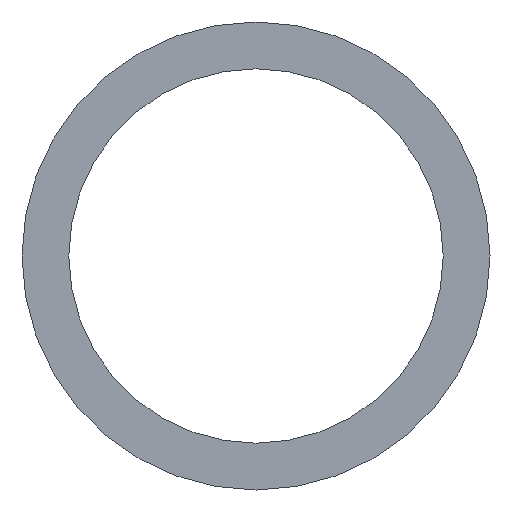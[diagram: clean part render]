
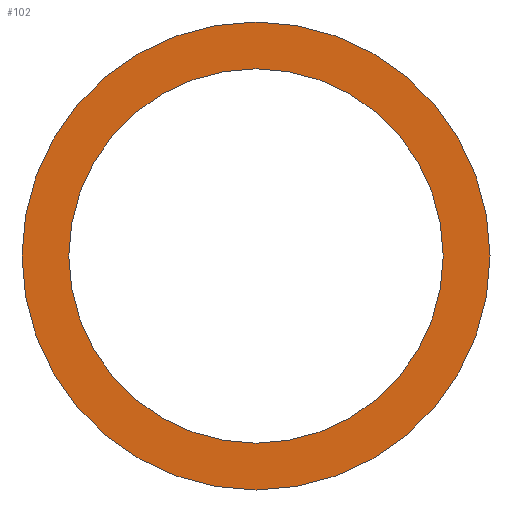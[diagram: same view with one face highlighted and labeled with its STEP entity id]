
A CAD part, front view. The second image highlights one B-rep face of the part: STEP entity #102.
In plain terms, the highlighted planar face has unit normal (0, -1, 0).
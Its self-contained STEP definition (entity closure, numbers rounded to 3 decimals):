
#1 = EDGE_LOOP ( 'NONE', ( #163, #138 ) ) ;
#2 = VERTEX_POINT ( 'NONE', #133 ) ;
#16 = ORIENTED_EDGE ( 'NONE', *, *, #173, .F. ) ;
#17 = CIRCLE ( 'NONE', #235, 4. ) ;
#21 = CARTESIAN_POINT ( 'NONE',  ( 0., -110., 0. ) ) ;
#23 = FACE_OUTER_BOUND ( 'NONE', #220, .T. ) ;
#35 = EDGE_CURVE ( 'NONE', #109, #71, #17, .T. ) ;
#42 = DIRECTION ( 'NONE',  ( 0., 1., 0. ) ) ;
#45 = DIRECTION ( 'NONE',  ( 0., 1., 0. ) ) ;
#50 = CARTESIAN_POINT ( 'NONE',  ( 0., -110., 0. ) ) ;
#66 = CIRCLE ( 'NONE', #108, 4. ) ;
#68 = PLANE ( 'NONE',  #200 ) ;
#71 = VERTEX_POINT ( 'NONE', #189 ) ;
#88 = DIRECTION ( 'NONE',  ( 0., 0., 1. ) ) ;
#93 = CIRCLE ( 'NONE', #157, 5. ) ;
#95 = EDGE_CURVE ( 'NONE', #141, #2, #247, .T. ) ;
#97 = AXIS2_PLACEMENT_3D ( 'NONE', #50, #128, #204 ) ;
#99 = CARTESIAN_POINT ( 'NONE',  ( 0., -110., -5. ) ) ;
#102 = ADVANCED_FACE ( 'NONE', ( #23, #241 ), #68, .F. ) ;
#106 = CARTESIAN_POINT ( 'NONE',  ( 0., -110., 0. ) ) ;
#108 = AXIS2_PLACEMENT_3D ( 'NONE', #161, #42, #118 ) ;
#109 = VERTEX_POINT ( 'NONE', #202 ) ;
#118 = DIRECTION ( 'NONE',  ( 0., 0., 1. ) ) ;
#128 = DIRECTION ( 'NONE',  ( 0., 1., 0. ) ) ;
#130 = CARTESIAN_POINT ( 'NONE',  ( 0., -110., 0. ) ) ;
#133 = CARTESIAN_POINT ( 'NONE',  ( 0., -110., 5. ) ) ;
#138 = ORIENTED_EDGE ( 'NONE', *, *, #195, .T. ) ;
#141 = VERTEX_POINT ( 'NONE', #99 ) ;
#142 = DIRECTION ( 'NONE',  ( 0., 0., 1. ) ) ;
#149 = ORIENTED_EDGE ( 'NONE', *, *, #95, .F. ) ;
#157 = AXIS2_PLACEMENT_3D ( 'NONE', #130, #167, #206 ) ;
#161 = CARTESIAN_POINT ( 'NONE',  ( 0., -110., 0. ) ) ;
#163 = ORIENTED_EDGE ( 'NONE', *, *, #35, .T. ) ;
#167 = DIRECTION ( 'NONE',  ( 0., 1., 0. ) ) ;
#173 = EDGE_CURVE ( 'NONE', #2, #141, #93, .T. ) ;
#189 = CARTESIAN_POINT ( 'NONE',  ( 0., -110., 4. ) ) ;
#195 = EDGE_CURVE ( 'NONE', #71, #109, #66, .T. ) ;
#200 = AXIS2_PLACEMENT_3D ( 'NONE', #21, #45, #142 ) ;
#202 = CARTESIAN_POINT ( 'NONE',  ( 0., -110., -4. ) ) ;
#204 = DIRECTION ( 'NONE',  ( 0., 0., 1. ) ) ;
#206 = DIRECTION ( 'NONE',  ( 0., 0., 1. ) ) ;
#207 = DIRECTION ( 'NONE',  ( 0., 1., 0. ) ) ;
#220 = EDGE_LOOP ( 'NONE', ( #149, #16 ) ) ;
#235 = AXIS2_PLACEMENT_3D ( 'NONE', #106, #207, #88 ) ;
#241 = FACE_BOUND ( 'NONE', #1, .T. ) ;
#247 = CIRCLE ( 'NONE', #97, 5. ) ;
